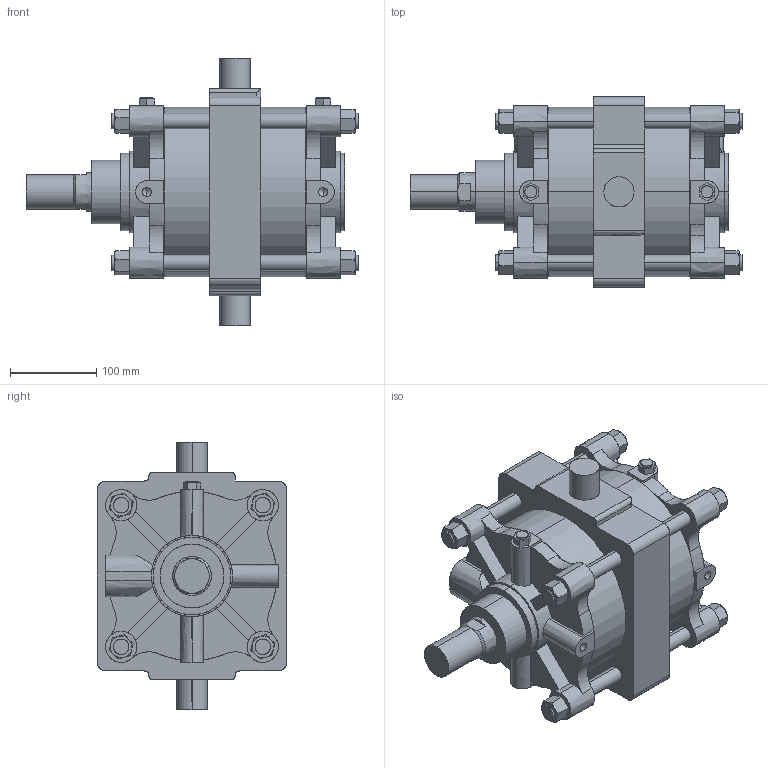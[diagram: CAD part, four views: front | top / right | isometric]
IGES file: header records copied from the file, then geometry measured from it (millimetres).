
Start section: SolidWorks IGES file using analytic representation for surfaces
Global section: file name: C:\Users\Toshiba\Desktop\A##2-180#-100-T.IGS; native system: SolidWorks 2014; preprocessor: SolidWorks 2014; author: Toshiba; date: 160331.145857; units: millimetre
Bounding box: 384.5 x 220 x 310 mm (x, y, z)
Surface area: 679777 mm2 (no closed solid volume)
Topology: 0 solids, 0 shells, 423 faces, 8131 edges, 8119 vertices
Faces by surface type: bspline 259, revolution 164
